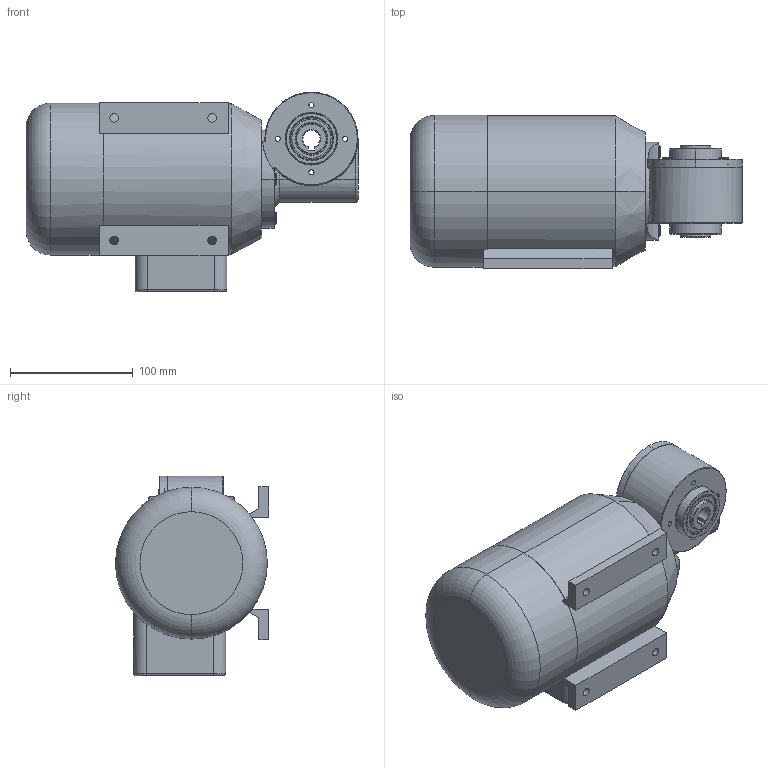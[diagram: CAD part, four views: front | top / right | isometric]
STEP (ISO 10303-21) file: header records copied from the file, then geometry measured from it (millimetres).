
FILE_DESCRIPTION (( 'STEP AP214' ), '1' );
FILE_NAME ('SN3BH_120W_180W_250W_B.STEP', '2021-03-16T12:44:42', ( '' ), ( '' ), 'SwSTEP 2.0', 'SolidWorks 2019', '' );
FILE_SCHEMA (( 'AUTOMOTIVE_DESIGN' ));
Length unit declared in the file: millimetre
Products named in the file (1): SN3BH_120W_180W_250W_B
Bounding box: 271 x 125 x 163 mm (x, y, z)
Surface area: 158286.6 mm2 (no closed solid volume)
Topology: 0 solids, 17 shells, 289 faces, 814 edges, 522 vertices
Faces by surface type: cylinder 107, plane 97, cone 66, torus 13, bspline 6
Entity records: 13016 total; most frequent: CARTESIAN_POINT 2288, DIRECTION 1698, ORIENTED_EDGE 1395, EDGE_CURVE 798, AXIS2_PLACEMENT_3D 656, VERTEX_POINT 522, LINE 386, VECTOR 386
